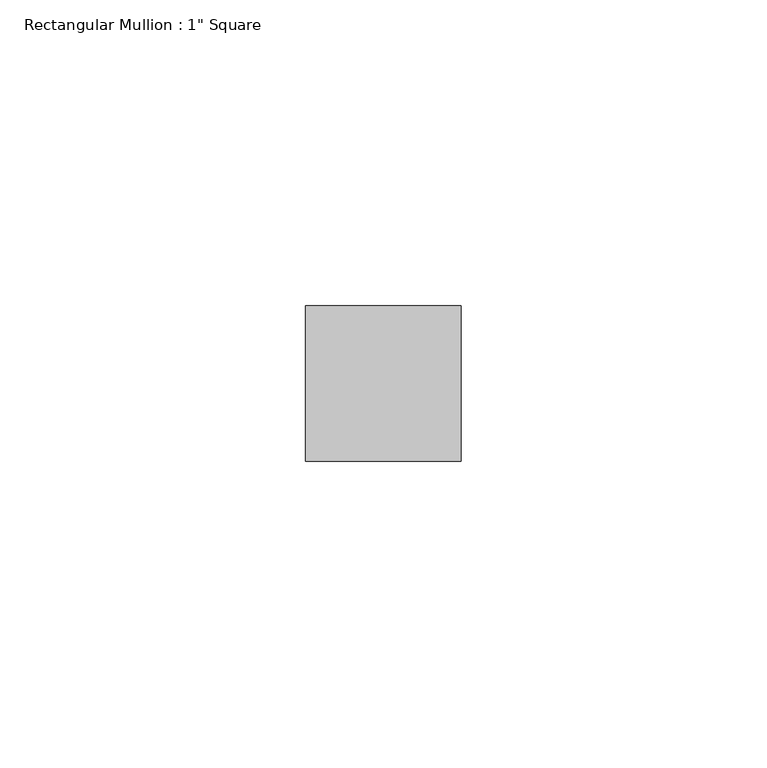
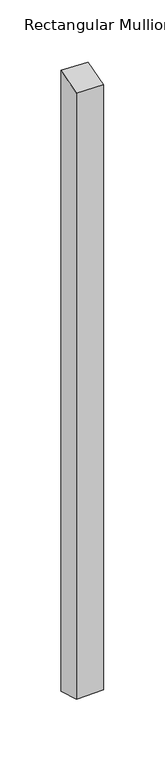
"""IFC4 building model written with IfcOpenShell, lengths in millimetres: member geometry."""

import ifcopenshell
import ifcopenshell.guid

model = None  # the IFC model being written
_history = None  # IfcOwnerHistory: only IFC2X3 demands one
_inside = {}  # id of a spatial element -> (the spatial element, [elements in it])
_under = {}  # id of a project, library or spatial element -> (it, [spatial elements below it])
_declared = {}  # id of a project -> (the project, [libraries it declares])
_typed = {}  # id of a type object -> (the type object, [elements of that type])
_made_of = {}  # id of a material, layer set ... -> (it, [elements and type objects made of it])


def new_model(schema):
    """Start an empty IFC model of exactly this schema.

    Asked for "IFC4X3", IfcOpenShell would pick the latest addendum, in which some entities
    have other attributes; the version numbers below select the first issue.
    IFC2X3 requires an IfcOwnerHistory on every rooted entity: one is made here for all.
    """
    global model, _history
    if schema == "IFC4X3":
        model = ifcopenshell.file(schema_version=(4, 3, 0, 0))
    else:
        model = ifcopenshell.file(schema=schema)
    _inside.clear()
    _under.clear()
    _declared.clear()
    _typed.clear()
    _made_of.clear()
    _history = None
    if model.schema == "IFC2X3":
        org = make("IfcOrganization", Name="unknown")
        user = make(
            "IfcPersonAndOrganization",
            ThePerson=make("IfcPerson", FamilyName="unknown"),
            TheOrganization=org,
        )
        app = make(
            "IfcApplication",
            ApplicationDeveloper=org,
            Version="unknown",
            ApplicationFullName="unknown",
            ApplicationIdentifier="unknown",
        )
        _history = make(
            "IfcOwnerHistory",
            OwningUser=user,
            OwningApplication=app,
            ChangeAction="ADDED",
            CreationDate=0,
        )
    return model


def make(cls, **values):
    """One entity of the class cls with the attributes given. An attribute that is None is left unset."""
    return model.create_entity(
        cls, **{name: value for name, value in values.items() if value is not None}
    )


def rooted(cls, **values):
    """An entity with a GlobalId (a new one), such as an element, a storey or a relation."""
    return make(cls, GlobalId=ifcopenshell.guid.new(), OwnerHistory=_history, **values)


def si_unit(unit_type, name, prefix=None):
    """IfcSIUnit, for example si_unit("LENGTHUNIT", "METRE", prefix="MILLI")."""
    return make("IfcSIUnit", UnitType=unit_type, Prefix=prefix, Name=name)


def assignment(units):
    """IfcUnitAssignment: the units of a project."""
    return None if units is None else make("IfcUnitAssignment", Units=units)


def point(xyz):
    """IfcCartesianPoint."""
    return None if xyz is None else make("IfcCartesianPoint", Coordinates=xyz)


def direction(xyz):
    """IfcDirection."""
    return None if xyz is None else make("IfcDirection", DirectionRatios=xyz)


def frame(location, z_axis=None, x_axis=None):
    """IfcAxis2Placement3D, a coordinate frame: its origin and axes. An axis left out is left unset."""
    return make(
        "IfcAxis2Placement3D",
        Location=point(location),
        Axis=direction(z_axis),
        RefDirection=direction(x_axis),
    )


def origin():
    """The frame at (0, 0, 0) with its axes left unset."""
    return frame((0.0, 0.0, 0.0))


def place(relative_to, where):
    """IfcLocalPlacement: puts the frame where relative to a parent placement (None: the world)."""
    return make(
        "IfcLocalPlacement", PlacementRelTo=relative_to, RelativePlacement=where
    )


def context(
    kind, dimensions, precision=None, world=None, true_north=None, identifier=None
):
    """IfcGeometricRepresentationContext, for example the 3D "Model" context."""
    return make(
        "IfcGeometricRepresentationContext",
        ContextIdentifier=identifier,
        ContextType=kind,
        CoordinateSpaceDimension=dimensions,
        Precision=precision,
        WorldCoordinateSystem=world,
        TrueNorth=true_north,
    )


def project(units=None, contexts=None):
    """IfcProject with its units and contexts."""
    return rooted(
        "IfcProject",
        Name="project",
        RepresentationContexts=contexts,
        UnitsInContext=assignment(units),
    )


def spatial(cls, under=None, at=None, **own):
    """A site, building, storey or space (cls), placed at a placement, below another one or the project."""
    s = rooted(cls, ObjectPlacement=at, **own)
    if under is not None:
        _under.setdefault(under.id(), (under, []))[1].append(s)
    return s


def faces_of(points, faces, orient=None, outer=None):
    """IfcFace entities. A face is a list of loops; a loop is a list of indices into points, from 0.

    orient and outer hold one flag for each loop. By default every Orientation is true, the
    first loop of a face is its IfcFaceOuterBound and the others are IfcFaceBound.
    """
    made = []
    for i, loops in enumerate(faces):
        bounds = []
        for j, loop in enumerate(loops):
            is_outer = j == 0 if outer is None else outer[i][j]
            bounds.append(
                make(
                    "IfcFaceOuterBound" if is_outer else "IfcFaceBound",
                    Bound=make("IfcPolyLoop", Polygon=[points[k] for k in loop]),
                    Orientation=True if orient is None else orient[i][j],
                )
            )
        made.append(make("IfcFace", Bounds=bounds))
    return made


def faceted_brep(points, faces, orient=None, outer=None, voids=None):
    """IfcFacetedBrep: a solid bounded by flat faces; with voids (closed shells), ...WithVoids."""
    shared = [point(p) for p in points]
    hull = make("IfcClosedShell", CfsFaces=faces_of(shared, faces, orient, outer))
    if voids is None:
        return make("IfcFacetedBrep", Outer=hull)
    return make(
        "IfcFacetedBrepWithVoids",
        Outer=hull,
        Voids=[
            make(cls, CfsFaces=faces_of(shared, fs, o, b)) for cls, fs, o, b in voids
        ],
    )


def shape(context_of_items, identifier, shape_type, items):
    """IfcShapeRepresentation: the items that make up one representation, for example the "Body"."""
    return make(
        "IfcShapeRepresentation",
        ContextOfItems=context_of_items,
        RepresentationIdentifier=identifier,
        RepresentationType=shape_type,
        Items=items,
    )


def source(mapping_origin, context_of_items, identifier, shape_type, items):
    """IfcRepresentationMap: a shape defined once, which mapped items show again and again."""
    return make(
        "IfcRepresentationMap",
        MappingOrigin=mapping_origin,
        MappedRepresentation=shape(context_of_items, identifier, shape_type, items),
    )


def transform(
    local_origin,
    x_axis=None,
    y_axis=None,
    z_axis=None,
    scale=None,
    scale2=None,
    scale3=None,
    uniform=True,
):
    """IfcCartesianTransformationOperator3D, or its non-uniform kind. x_axis, y_axis, z_axis: its Axis1, 2, 3."""
    if uniform:
        return make(
            "IfcCartesianTransformationOperator3D",
            Axis1=direction(x_axis),
            Axis2=direction(y_axis),
            LocalOrigin=point(local_origin),
            Scale=scale,
            Axis3=direction(z_axis),
        )
    return make(
        "IfcCartesianTransformationOperator3DnonUniform",
        Axis1=direction(x_axis),
        Axis2=direction(y_axis),
        LocalOrigin=point(local_origin),
        Scale=scale,
        Axis3=direction(z_axis),
        Scale2=scale2,
        Scale3=scale3,
    )


def mapped(mapping_source, mapping_target):
    """IfcMappedItem: shows the shape of a source again, moved by a transform."""
    return make(
        "IfcMappedItem", MappingSource=mapping_source, MappingTarget=mapping_target
    )


def made_of(thing, what):
    """Note that an element or type object is made of a material, layer set ...; save() writes the relation."""
    if what is not None:
        _made_of.setdefault(what.id(), (what, []))[1].append(thing)
    return thing


def element(
    cls,
    number,
    at=None,
    inside=None,
    cuts=None,
    type_object=None,
    material=None,
    context=None,
    identifier="Body",
    shape_type=None,
    held_by="IfcProductDefinitionShape",
    body=None,
    shapes=None,
    **own,
):
    """One element of the class cls, such as IfcWall. Its Tag is "e" and its number.

    at: its placement. inside: the storey or other place that contains it. cuts: it is an
    opening in that element (IfcRelVoidsElement). A single representation is given by context,
    identifier, shape_type and body (its items); several are given by shapes. held_by: the class
    of the entity that holds the representations. save() writes the other relations.
    """
    e = rooted(cls, Tag="e%d" % number, ObjectPlacement=at, **own)
    if body is not None:
        shapes = [shape(context, identifier, shape_type, body)]
    if shapes is not None:
        e.Representation = make(held_by, Representations=shapes)
    if inside is not None:
        _inside.setdefault(inside.id(), (inside, []))[1].append(e)
    if cuts is not None:
        rooted(
            "IfcRelVoidsElement", RelatingBuildingElement=cuts, RelatedOpeningElement=e
        )
    if type_object is not None:
        _typed.setdefault(type_object.id(), (type_object, []))[1].append(e)
    return made_of(e, material)


def aggregate(whole, parts):
    """IfcRelAggregates: a whole, such as a stair, and the parts it consists of."""
    return rooted("IfcRelAggregates", RelatingObject=whole, RelatedObjects=parts)


def save(model, path):
    """Write the relations noted so far, then the file.

    IfcRelAggregates (storeys below a building ...), IfcRelContainedInSpatialStructure (elements
    in a storey), IfcRelDefinesByType, IfcRelAssociatesMaterial and IfcRelDeclares: one each for
    every whole, place, type object, material and project.
    """
    for whole, parts in _under.values():
        aggregate(whole, parts)
    for where, things in _inside.values():
        rooted(
            "IfcRelContainedInSpatialStructure",
            RelatedElements=things,
            RelatingStructure=where,
        )
    for kind, things in _typed.values():
        rooted("IfcRelDefinesByType", RelatedObjects=things, RelatingType=kind)
    for what, things in _made_of.values():
        rooted("IfcRelAssociatesMaterial", RelatedObjects=things, RelatingMaterial=what)
    for by, libraries in _declared.values():
        rooted("IfcRelDeclares", RelatingContext=by, RelatedDefinitions=libraries)
    model.write(path)


def member_1517f304(model_context):
    return source(origin(), model_context, "Body", "Brep", [
        faceted_brep([(-25.4, 12.7, 4.4201437), (0.0, 12.7, 3.6904493), (0.0, 12.7, -613.2904493), (-25.4, 12.7, -614.0201437), (-25.4, -12.7, -2.9607549), (-25.4, -12.7, -606.6392451), (0.0, -12.7, -3.6904493), (0.0, -12.7, -605.9095507)], [[[0, 1, 2, 3]], [[4, 0, 3, 5]], [[6, 4, 5, 7]], [[1, 6, 7, 2]], [[1, 0, 4, 6]], [[2, 7, 5, 3]]]),
    ])


if __name__ == "__main__":
    model = new_model("IFC4")
    model_context = context("Model", 3, world=origin())
    ifc_project = project(units=[si_unit("LENGTHUNIT", "METRE", prefix="MILLI")], contexts=[model_context])
    site = spatial("IfcSite", under=ifc_project)
    building = spatial("IfcBuilding", under=site)
    placement = place(None, origin())
    member_shape = member_1517f304(model_context)
    element("IfcMember", 1, ObjectType="Rectangular Mullion : 1\" Square", at=placement, inside=building, context=model_context, shape_type="MappedRepresentation", body=[
        mapped(member_shape, transform((0.0, 0.0, 0.0), x_axis=(1.0, 0.0, 0.0), y_axis=(0.0, 1.0, 0.0), z_axis=(0.0, 0.0, 1.0))),
    ])
    save(model, "model.ifc")
